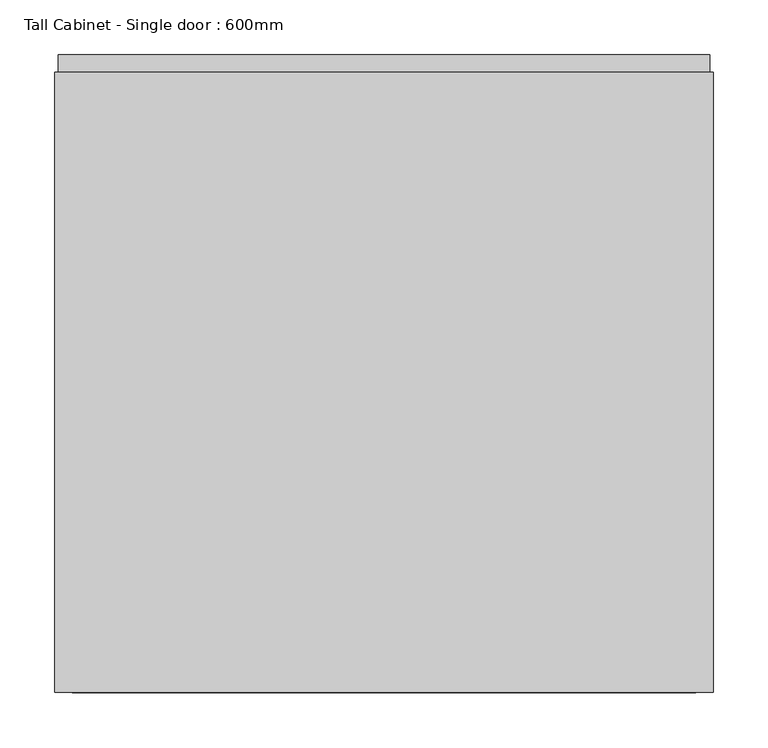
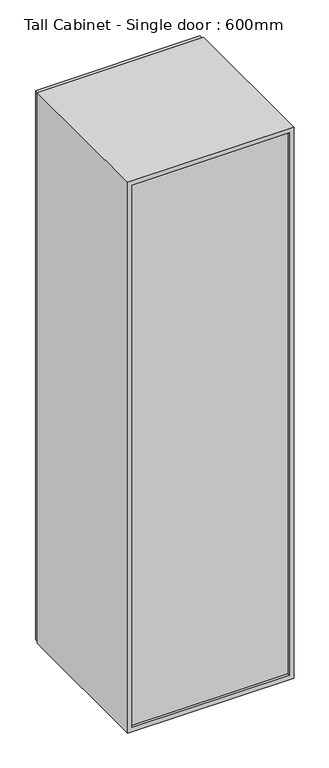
"""IFC4 building model written with IfcOpenShell, lengths in millimetres: furniture geometry, Tall Cabinet - Single door : 600mm."""

from ifc_helpers import new_model, si_unit, frame, origin, place, context, project, spatial, polyline, outline, extrude, source, transform, mapped, element, save


def tall_cabinet_single_door_600mm_d6f7602f(model_context):
    return source(origin(), model_context, "Body", "SweptSolid", [
        extrude(outline(polyline([(341.7003264, 581.0), (341.7003264, 565.0), (-252.2996736, 565.0), (-252.2996736, 581.0), (341.7003264, 581.0)])), frame((0.0, 0.0, 103.0), z_axis=(0.0, 0.0, 1.0), x_axis=(1.0, 0.0, 0.0)), (0.0, 0.0, 1.0), 2094.0),
        extrude(outline(polyline([(328.7003264, 10.0), (-239.2996736, 10.0), (-239.2996736, 16.0), (328.7003264, 16.0), (328.7003264, 10.0)])), frame((0.0, 0.0, 116.0), z_axis=(0.0, 0.0, 1.0), x_axis=(1.0, 0.0, 0.0)), (0.0, 0.0, 1.0), 2068.0),
        extrude(outline(polyline([(2200.0, 344.7003264), (2200.0, -255.2996736), (100.0, -255.2996736), (100.0, 344.7003264), (2200.0, 344.7003264)]), holes=[polyline([(2184.0, 328.7003264), (116.0, 328.7003264), (116.0, -239.2996736), (2184.0, -239.2996736), (2184.0, 328.7003264)])]), frame((0.0, 0.0, 0.0), z_axis=(0.0, 1.0, 0.0), x_axis=(0.0, 0.0, 1.0)), (0.0, 0.0, 1.0), 565.0),
    ])


if __name__ == "__main__":
    model = new_model("IFC4")
    model_context = context("Model", 3, world=origin())
    ifc_project = project(units=[si_unit("LENGTHUNIT", "METRE", prefix="MILLI")], contexts=[model_context])
    site = spatial("IfcSite", under=ifc_project)
    building = spatial("IfcBuilding", under=site)
    placement = place(None, origin())
    tall_cabinet_single_door_600mm_shape = tall_cabinet_single_door_600mm_d6f7602f(model_context)
    element("IfcFurniture", 1, ObjectType="Tall Cabinet - Single door : 600mm", at=placement, inside=building, context=model_context, shape_type="MappedRepresentation", body=[
        mapped(tall_cabinet_single_door_600mm_shape, transform((0.0, 0.0, 0.0), x_axis=(1.0, 0.0, 0.0), y_axis=(0.0, 1.0, 0.0), z_axis=(0.0, 0.0, 1.0))),
    ])
    save(model, "model.ifc")
